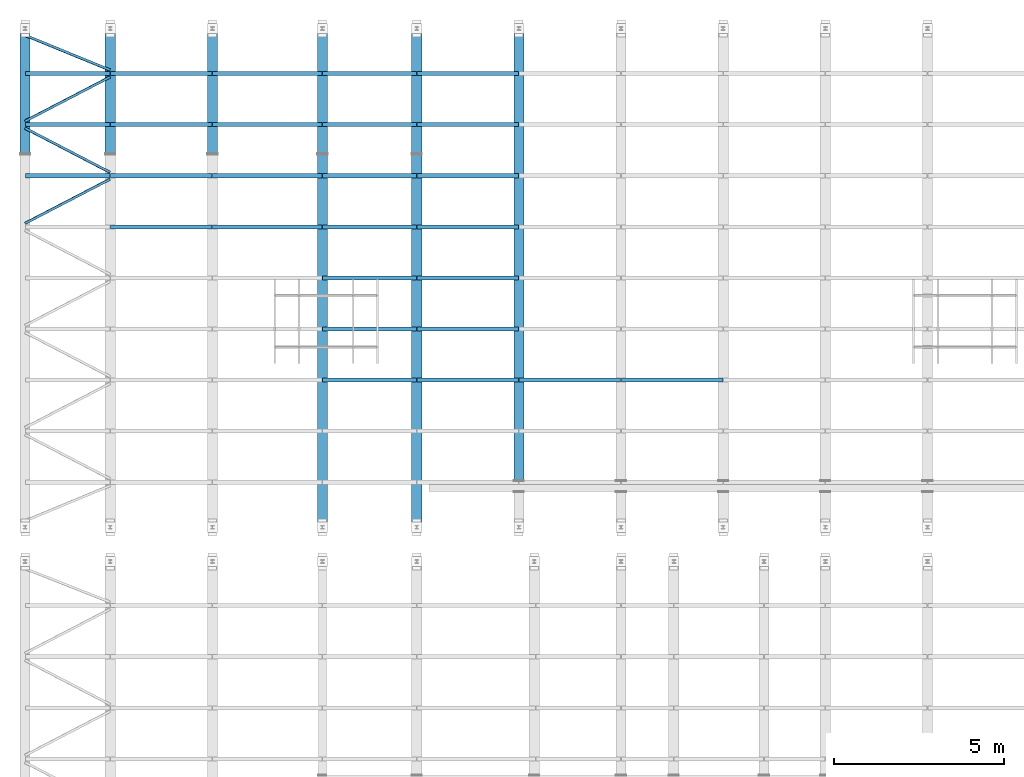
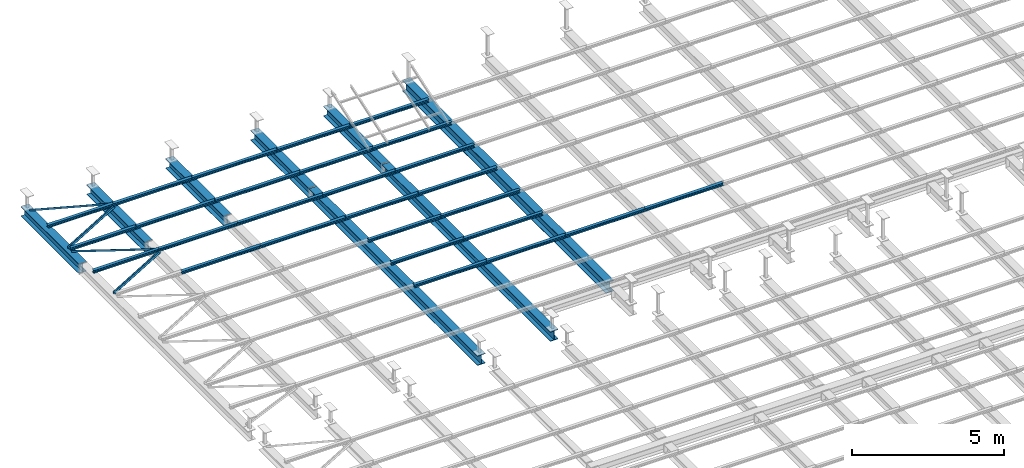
# One storey, part 78 of 139: 39 beams.
"""IFC2X3 building model written with IfcOpenShell, lengths in metres."""

from ifc_helpers import new_model, entity, si_unit, converted_unit, derived_unit, frame, origin, place, context, subcontext, project, spatial, polyline, outline, extrude, material, element, save


model = new_model("IFC2X3")

# Units and contexts
model_context = context("Model", 3, precision=1e-05, world=origin())
body_context = subcontext(model_context, "Body", "Model", "MODEL_VIEW")
ifc_project = project(units=[si_unit("LENGTHUNIT", "METRE"), si_unit("AREAUNIT", "SQUARE_METRE"), si_unit("VOLUMEUNIT", "CUBIC_METRE"), si_unit("MASSUNIT", "GRAM", prefix="KILO"), converted_unit("PLANEANGLEUNIT", "DEGREE", entity("IfcPlaneAngleMeasure", 0.0174532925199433), si_unit("PLANEANGLEUNIT", "RADIAN"), dimensions=[0, 0, 0, 0, 0, 0, 0]), derived_unit("THERMALTRANSMITTANCEUNIT", [(si_unit("POWERUNIT", "WATT"), 1), (si_unit("THERMODYNAMICTEMPERATUREUNIT", "KELVIN"), -1), (si_unit("LENGTHUNIT", "METRE"), -2)]), derived_unit("VOLUMETRICFLOWRATEUNIT", [(si_unit("LENGTHUNIT", "METRE"), 3), (converted_unit("TIMEUNIT", "hour", entity("IfcTimeMeasure", 3600.0), si_unit("TIMEUNIT", "SECOND"), dimensions=[0, 0, 1, 0, 0, 0, 0]), -1), (si_unit("LENGTHUNIT", "METRE"), -1)])], contexts=[model_context])

# Site, building, storey
site_placement = place(None, origin())
site = spatial("IfcSite", under=ifc_project, at=site_placement, Name="TWP_Speiseverteilzentrum SBW VZ II", CompositionType="ELEMENT")
building_placement = place(site_placement, origin())
building = spatial("IfcBuilding", under=site, at=building_placement, Name="Speiseverteilzentrum SBW VZ II", CompositionType="ELEMENT")
storey_placement = place(building_placement, frame((0.0, 0.0, 7.1307)))
storey = spatial("IfcBuildingStorey", under=building, at=storey_placement, Name="Wartung_FFB", CompositionType="ELEMENT", Elevation=7.1307)

# Beams
ifc_material_1 = material(Name="S235")
beam_1_placement = place(storey_placement, frame((10.5500000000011, 81.8930000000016, -0.385), z_axis=(0.0, 0.0, 1.0), x_axis=(1.0, -2.44929359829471e-16, 0.0)))
element("IfcBeam", 1, at=beam_1_placement, inside=storey, material=ifc_material_1, Name="Stahlträger", context=body_context, shape_type="SweptSolid", body=[
    extrude(outline(polyline([(-0.15, 0.195), (-0.15, 0.176), (-0.00550000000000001, 0.176), (-0.00550000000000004, -0.176), (-0.15, -0.176), (-0.15, -0.195), (0.15, -0.195), (0.15, -0.176), (0.00549999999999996, -0.176), (0.00549999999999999, 0.176), (0.15, 0.176), (0.15, 0.195), (-0.15, 0.195)])), frame((0.0, 0.0, 0.0), z_axis=(0.0, 1.0, 0.0), x_axis=(-1.0, 0.0, 0.0)), (0.0, 0.0, 1.0), 3.80699999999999),
])
ifc_material_2 = material(Name="S235")
beam_2_placement = place(storey_placement, frame((13.0500000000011, 81.8930000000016, -0.385), z_axis=(0.0, 0.0, 1.0), x_axis=(1.0, -2.44929359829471e-16, 0.0)))
element("IfcBeam", 2, at=beam_2_placement, inside=storey, material=ifc_material_2, Name="Stahlträger", context=body_context, shape_type="SweptSolid", body=[
    extrude(outline(polyline([(-0.15, 0.195), (-0.15, 0.176), (-0.00550000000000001, 0.176), (-0.00550000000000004, -0.176), (-0.15, -0.176), (-0.15, -0.195), (0.15, -0.195), (0.15, -0.176), (0.00549999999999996, -0.176), (0.00549999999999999, 0.176), (0.15, 0.176), (0.15, 0.195), (-0.15, 0.195)])), frame((0.0, 0.0, 0.0), z_axis=(0.0, 1.0, 0.0), x_axis=(-1.0, 0.0, 0.0)), (0.0, 0.0, 1.0), 3.80699999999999),
])
ifc_material_3 = material(Name="S235")
beam_3_placement = place(storey_placement, frame((16.0500000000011, 81.8930000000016, -0.385), z_axis=(0.0, 0.0, 1.0), x_axis=(1.0, -2.44929359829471e-16, 0.0)))
element("IfcBeam", 3, at=beam_3_placement, inside=storey, material=ifc_material_3, Name="Stahlträger", context=body_context, shape_type="SweptSolid", body=[
    extrude(outline(polyline([(-0.15, 0.195), (-0.15, 0.176), (-0.00550000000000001, 0.176), (-0.00550000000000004, -0.176), (-0.15, -0.176), (-0.15, -0.195), (0.15, -0.195), (0.15, -0.176), (0.00549999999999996, -0.176), (0.00549999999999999, 0.176), (0.15, 0.176), (0.15, 0.195), (-0.15, 0.195)])), frame((0.0, 0.0, 0.0), z_axis=(0.0, 1.0, 0.0), x_axis=(-1.0, 0.0, 0.0)), (0.0, 0.0, 1.0), 3.80699999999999),
])
ifc_material_4 = material(Name="S235")
beam_4_placement = place(storey_placement, frame((22.0500000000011, 81.8930000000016, -0.385), z_axis=(0.0, 0.0, 1.0), x_axis=(1.0, -2.44929359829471e-16, 0.0)))
element("IfcBeam", 4, at=beam_4_placement, inside=storey, material=ifc_material_4, Name="Stahlträger", context=body_context, shape_type="SweptSolid", body=[
    extrude(outline(polyline([(-0.15, 0.195), (-0.15, 0.176), (-0.00550000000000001, 0.176), (-0.00550000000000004, -0.176), (-0.15, -0.176), (-0.15, -0.195), (0.15, -0.195), (0.15, -0.176), (0.00549999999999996, -0.176), (0.00549999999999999, 0.176), (0.15, 0.176), (0.15, 0.195), (-0.15, 0.195)])), frame((0.0, 0.0, 0.0), z_axis=(0.0, 1.0, 0.0), x_axis=(-1.0, 0.0, 0.0)), (0.0, 0.0, 1.0), 3.80699999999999),
])
ifc_material_5 = material(Name="S235")
beam_5_placement = place(storey_placement, frame((19.2800000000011, 81.8930000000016, -0.385), z_axis=(0.0, 0.0, 1.0), x_axis=(1.0, -2.44929359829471e-16, 0.0)))
element("IfcBeam", 5, at=beam_5_placement, inside=storey, material=ifc_material_5, Name="Stahlträger", context=body_context, shape_type="SweptSolid", body=[
    extrude(outline(polyline([(-0.15, 0.195), (-0.15, 0.176), (-0.00550000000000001, 0.176), (-0.00550000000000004, -0.176), (-0.15, -0.176), (-0.15, -0.195), (0.15, -0.195), (0.15, -0.176), (0.00549999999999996, -0.176), (0.00549999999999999, 0.176), (0.15, 0.176), (0.15, 0.195), (-0.15, 0.195)])), frame((0.0, 0.0, 0.0), z_axis=(0.0, 1.0, 0.0), x_axis=(-1.0, 0.0, 0.0)), (0.0, 0.0, 1.0), 3.80699999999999),
])
ifc_material_6 = material(Name="S235")
beam_6_placement = place(storey_placement, frame((25.0500000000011, 72.2845015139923, -0.41), z_axis=(0.0, 0.0, 1.0), x_axis=(1.0, -2.44929359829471e-16, 0.0)))
element("IfcBeam", 6, at=beam_6_placement, inside=storey, material=ifc_material_6, Name="Stahlträger", context=body_context, shape_type="SweptSolid", body=[
    extrude(outline(polyline([(-0.15, 0.22), (-0.15, 0.199), (-0.00574999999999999, 0.199), (-0.00575000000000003, -0.199), (-0.15, -0.199), (-0.15, -0.22), (0.15, -0.22), (0.15, -0.199), (0.00574999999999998, -0.199), (0.00575000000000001, 0.199), (0.15, 0.199), (0.15, 0.22), (-0.15, 0.22)])), frame((0.0, 0.0, 0.0), z_axis=(0.0, 1.0, 0.0), x_axis=(-1.0, 0.0, 0.0)), (0.0, 0.0, 1.0), 13.4154984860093),
])
ifc_material_7 = material(Name="S235")
beam_7_placement = place(storey_placement, frame((22.0500000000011, 70.7522526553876, -0.385), z_axis=(0.0, 0.0, 1.0), x_axis=(1.0, -2.44929359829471e-16, 0.0)))
element("IfcBeam", 7, at=beam_7_placement, inside=storey, material=ifc_material_7, Name="Stahlträger", context=body_context, shape_type="SweptSolid", body=[
    extrude(outline(polyline([(-0.15, 0.195), (-0.15, 0.176), (-0.00550000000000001, 0.176), (-0.00550000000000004, -0.176), (-0.15, -0.176), (-0.15, -0.195), (0.15, -0.195), (0.15, -0.176), (0.00549999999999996, -0.176), (0.00549999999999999, 0.176), (0.15, 0.176), (0.15, 0.195), (-0.15, 0.195)])), frame((0.0, 0.0, 0.0), z_axis=(0.0, 1.0, 0.0), x_axis=(-1.0, 0.0, 0.0)), (0.0, 0.0, 1.0), 11.090747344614),
])
ifc_material_8 = material(Name="S235")
beam_8_placement = place(storey_placement, frame((19.2800000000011, 70.7522526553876, -0.385), z_axis=(0.0, 0.0, 1.0), x_axis=(1.0, -2.44929359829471e-16, 0.0)))
element("IfcBeam", 8, at=beam_8_placement, inside=storey, material=ifc_material_8, Name="Stahlträger", context=body_context, shape_type="SweptSolid", body=[
    extrude(outline(polyline([(-0.15, 0.195), (-0.15, 0.176), (-0.00550000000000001, 0.176), (-0.00550000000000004, -0.176), (-0.15, -0.176), (-0.15, -0.195), (0.15, -0.195), (0.15, -0.176), (0.00549999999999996, -0.176), (0.00549999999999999, 0.176), (0.15, 0.176), (0.15, 0.195), (-0.15, 0.195)])), frame((0.0, 0.0, 0.0), z_axis=(0.0, 1.0, 0.0), x_axis=(-1.0, 0.0, 0.0)), (0.0, 0.0, 1.0), 11.090747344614),
])
ifc_material_9 = material(Name="S235")
beam_9_placement = place(storey_placement, frame((13.0600000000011, 84.2261263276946, -0.133), z_axis=(0.0, 0.0, 1.0), x_axis=(0.0, -1.0, 0.0)))
element("IfcBeam", 9, at=beam_9_placement, inside=storey, material=ifc_material_9, Name="Nebenträger", context=body_context, shape_type="SweptSolid", body=[
    extrude(outline(polyline([(-0.06, 0.0570000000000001), (-0.06, 0.0490000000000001), (-0.00249999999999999, 0.0490000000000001), (-0.0025, -0.0489999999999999), (-0.06, -0.0489999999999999), (-0.06, -0.0569999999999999), (0.06, -0.0569999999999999), (0.06, -0.0489999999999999), (0.0025, -0.0489999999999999), (0.00250000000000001, 0.0490000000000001), (0.06, 0.0490000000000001), (0.06, 0.0570000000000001), (-0.06, 0.0570000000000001)])), frame((0.0, 0.0, 0.0), z_axis=(0.0, 1.0, 0.0), x_axis=(-1.0, 0.0, 0.0)), (0.0, 0.0, 1.0), 2.98),
])
ifc_material_10 = material(Name="S235")
beam_10_placement = place(storey_placement, frame((22.0600000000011, 84.2261263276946, -0.133), z_axis=(0.0, 0.0, 1.0), x_axis=(0.0, -1.0, 0.0)))
element("IfcBeam", 10, at=beam_10_placement, inside=storey, material=ifc_material_10, Name="Nebenträger", context=body_context, shape_type="SweptSolid", body=[
    extrude(outline(polyline([(-0.06, 0.0570000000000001), (-0.06, 0.0490000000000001), (-0.00249999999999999, 0.0490000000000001), (-0.0025, -0.0489999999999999), (-0.06, -0.0489999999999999), (-0.06, -0.0569999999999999), (0.06, -0.0569999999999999), (0.06, -0.0489999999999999), (0.0025, -0.0489999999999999), (0.00250000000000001, 0.0490000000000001), (0.06, 0.0490000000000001), (0.06, 0.0570000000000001), (-0.06, 0.0570000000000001)])), frame((0.0, 0.0, 0.0), z_axis=(0.0, 1.0, 0.0), x_axis=(-1.0, 0.0, 0.0)), (0.0, 0.0, 1.0), 2.98),
])
ifc_material_11 = material(Name="S235")
beam_11_placement = place(storey_placement, frame((10.5600000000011, 84.2261263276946, -0.133), z_axis=(0.0, 0.0, 1.0), x_axis=(0.0, -1.0, 0.0)))
element("IfcBeam", 11, at=beam_11_placement, inside=storey, material=ifc_material_11, Name="Nebenträger", context=body_context, shape_type="SweptSolid", body=[
    extrude(outline(polyline([(-0.06, 0.0570000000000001), (-0.06, 0.0490000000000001), (-0.00249999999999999, 0.0490000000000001), (-0.0025, -0.0489999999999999), (-0.06, -0.0489999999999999), (-0.06, -0.0569999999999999), (0.06, -0.0569999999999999), (0.06, -0.0489999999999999), (0.0025, -0.0489999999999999), (0.00250000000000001, 0.0490000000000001), (0.06, 0.0490000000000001), (0.06, 0.0570000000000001), (-0.06, 0.0570000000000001)])), frame((0.0, 0.0, 0.0), z_axis=(0.0, 1.0, 0.0), x_axis=(-1.0, 0.0, 0.0)), (0.0, 0.0, 1.0), 2.48000000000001),
])
ifc_material_12 = material(Name="S235")
beam_12_placement = place(storey_placement, frame((13.0600000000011, 82.7261263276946, -0.133), z_axis=(0.0, 0.0, 1.0), x_axis=(0.0, -1.0, 0.0)))
element("IfcBeam", 12, at=beam_12_placement, inside=storey, material=ifc_material_12, Name="Nebenträger", context=body_context, shape_type="SweptSolid", body=[
    extrude(outline(polyline([(-0.06, 0.0570000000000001), (-0.06, 0.0490000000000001), (-0.00249999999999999, 0.0490000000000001), (-0.0025, -0.0489999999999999), (-0.06, -0.0489999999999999), (-0.06, -0.0569999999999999), (0.06, -0.0569999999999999), (0.06, -0.0489999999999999), (0.0025, -0.0489999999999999), (0.00250000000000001, 0.0490000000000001), (0.06, 0.0490000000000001), (0.06, 0.0570000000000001), (-0.06, 0.0570000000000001)])), frame((0.0, 0.0, 0.0), z_axis=(0.0, 1.0, 0.0), x_axis=(-1.0, 0.0, 0.0)), (0.0, 0.0, 1.0), 2.98),
])
ifc_material_13 = material(Name="S235")
beam_13_placement = place(storey_placement, frame((22.0600000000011, 82.7261263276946, -0.133), z_axis=(0.0, 0.0, 1.0), x_axis=(0.0, -1.0, 0.0)))
element("IfcBeam", 13, at=beam_13_placement, inside=storey, material=ifc_material_13, Name="Nebenträger", context=body_context, shape_type="SweptSolid", body=[
    extrude(outline(polyline([(-0.06, 0.0570000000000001), (-0.06, 0.0490000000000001), (-0.00249999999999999, 0.0490000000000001), (-0.0025, -0.0489999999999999), (-0.06, -0.0489999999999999), (-0.06, -0.0569999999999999), (0.06, -0.0569999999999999), (0.06, -0.0489999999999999), (0.0025, -0.0489999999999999), (0.00250000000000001, 0.0490000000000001), (0.06, 0.0490000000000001), (0.06, 0.0570000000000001), (-0.06, 0.0570000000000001)])), frame((0.0, 0.0, 0.0), z_axis=(0.0, 1.0, 0.0), x_axis=(-1.0, 0.0, 0.0)), (0.0, 0.0, 1.0), 2.98),
])
ifc_material_14 = material(Name="S235")
beam_14_placement = place(storey_placement, frame((10.5600000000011, 82.7261263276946, -0.133), z_axis=(0.0, 0.0, 1.0), x_axis=(0.0, -1.0, 0.0)))
element("IfcBeam", 14, at=beam_14_placement, inside=storey, material=ifc_material_14, Name="Nebenträger", context=body_context, shape_type="SweptSolid", body=[
    extrude(outline(polyline([(-0.06, 0.0570000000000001), (-0.06, 0.0490000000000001), (-0.00249999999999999, 0.0490000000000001), (-0.0025, -0.0489999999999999), (-0.06, -0.0489999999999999), (-0.06, -0.0569999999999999), (0.06, -0.0569999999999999), (0.06, -0.0489999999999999), (0.0025, -0.0489999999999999), (0.00250000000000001, 0.0490000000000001), (0.06, 0.0490000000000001), (0.06, 0.0570000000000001), (-0.06, 0.0570000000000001)])), frame((0.0, 0.0, 0.0), z_axis=(0.0, 1.0, 0.0), x_axis=(-1.0, 0.0, 0.0)), (0.0, 0.0, 1.0), 2.48000000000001),
])
ifc_material_15 = material(Name="S235")
beam_15_placement = place(storey_placement, frame((13.0600000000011, 81.2261263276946, -0.133), z_axis=(0.0, 0.0, 1.0), x_axis=(0.0, -1.0, 0.0)))
element("IfcBeam", 15, at=beam_15_placement, inside=storey, material=ifc_material_15, Name="Nebenträger", context=body_context, shape_type="SweptSolid", body=[
    extrude(outline(polyline([(-0.06, 0.0570000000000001), (-0.06, 0.0490000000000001), (-0.00249999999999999, 0.0490000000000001), (-0.0025, -0.0489999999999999), (-0.06, -0.0489999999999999), (-0.06, -0.0569999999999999), (0.06, -0.0569999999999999), (0.06, -0.0489999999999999), (0.0025, -0.0489999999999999), (0.00250000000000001, 0.0490000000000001), (0.06, 0.0490000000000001), (0.06, 0.0570000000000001), (-0.06, 0.0570000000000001)])), frame((0.0, 0.0, 0.0), z_axis=(0.0, 1.0, 0.0), x_axis=(-1.0, 0.0, 0.0)), (0.0, 0.0, 1.0), 2.98),
])
ifc_material_16 = material(Name="S235")
beam_16_placement = place(storey_placement, frame((22.0600000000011, 81.2261263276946, -0.133), z_axis=(0.0, 0.0, 1.0), x_axis=(0.0, -1.0, 0.0)))
element("IfcBeam", 16, at=beam_16_placement, inside=storey, material=ifc_material_16, Name="Nebenträger", context=body_context, shape_type="SweptSolid", body=[
    extrude(outline(polyline([(-0.06, 0.0570000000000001), (-0.06, 0.0490000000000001), (-0.00249999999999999, 0.0490000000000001), (-0.0025, -0.0489999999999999), (-0.06, -0.0489999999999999), (-0.06, -0.0569999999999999), (0.06, -0.0569999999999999), (0.06, -0.0489999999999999), (0.0025, -0.0489999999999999), (0.00250000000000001, 0.0490000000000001), (0.06, 0.0490000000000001), (0.06, 0.0570000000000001), (-0.06, 0.0570000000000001)])), frame((0.0, 0.0, 0.0), z_axis=(0.0, 1.0, 0.0), x_axis=(-1.0, 0.0, 0.0)), (0.0, 0.0, 1.0), 2.98),
])
ifc_material_17 = material(Name="S235")
beam_17_placement = place(storey_placement, frame((10.5600000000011, 81.2261263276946, -0.133), z_axis=(0.0, 0.0, 1.0), x_axis=(0.0, -1.0, 0.0)))
element("IfcBeam", 17, at=beam_17_placement, inside=storey, material=ifc_material_17, Name="Nebenträger", context=body_context, shape_type="SweptSolid", body=[
    extrude(outline(polyline([(-0.06, 0.0570000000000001), (-0.06, 0.0490000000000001), (-0.00249999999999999, 0.0490000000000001), (-0.0025, -0.0489999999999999), (-0.06, -0.0489999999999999), (-0.06, -0.0569999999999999), (0.06, -0.0569999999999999), (0.06, -0.0489999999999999), (0.0025, -0.0489999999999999), (0.00250000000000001, 0.0490000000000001), (0.06, 0.0490000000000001), (0.06, 0.0570000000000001), (-0.06, 0.0570000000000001)])), frame((0.0, 0.0, 0.0), z_axis=(0.0, 1.0, 0.0), x_axis=(-1.0, 0.0, 0.0)), (0.0, 0.0, 1.0), 2.48000000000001),
])
ifc_material_18 = material(Name="S235")
beam_18_placement = place(storey_placement, frame((13.0600000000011, 79.7261263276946, -0.133), z_axis=(0.0, 0.0, 1.0), x_axis=(0.0, -1.0, 0.0)))
element("IfcBeam", 18, at=beam_18_placement, inside=storey, material=ifc_material_18, Name="Nebenträger", context=body_context, shape_type="SweptSolid", body=[
    extrude(outline(polyline([(-0.06, 0.0570000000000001), (-0.06, 0.0490000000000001), (-0.00249999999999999, 0.0490000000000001), (-0.0025, -0.0489999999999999), (-0.06, -0.0489999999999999), (-0.06, -0.0569999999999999), (0.06, -0.0569999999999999), (0.06, -0.0489999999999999), (0.0025, -0.0489999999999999), (0.00250000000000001, 0.0490000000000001), (0.06, 0.0490000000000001), (0.06, 0.0570000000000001), (-0.06, 0.0570000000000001)])), frame((0.0, 0.0, 0.0), z_axis=(0.0, 1.0, 0.0), x_axis=(-1.0, 0.0, 0.0)), (0.0, 0.0, 1.0), 2.98),
])
ifc_material_19 = material(Name="S235")
beam_19_placement = place(storey_placement, frame((22.0600000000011, 79.7261263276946, -0.133), z_axis=(0.0, 0.0, 1.0), x_axis=(0.0, -1.0, 0.0)))
element("IfcBeam", 19, at=beam_19_placement, inside=storey, material=ifc_material_19, Name="Nebenträger", context=body_context, shape_type="SweptSolid", body=[
    extrude(outline(polyline([(-0.06, 0.0570000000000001), (-0.06, 0.0490000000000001), (-0.00249999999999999, 0.0490000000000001), (-0.0025, -0.0489999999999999), (-0.06, -0.0489999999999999), (-0.06, -0.0569999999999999), (0.06, -0.0569999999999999), (0.06, -0.0489999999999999), (0.0025, -0.0489999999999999), (0.00250000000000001, 0.0490000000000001), (0.06, 0.0490000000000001), (0.06, 0.0570000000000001), (-0.06, 0.0570000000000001)])), frame((0.0, 0.0, 0.0), z_axis=(0.0, 1.0, 0.0), x_axis=(-1.0, 0.0, 0.0)), (0.0, 0.0, 1.0), 2.98),
])
ifc_material_20 = material(Name="S235")
beam_20_placement = place(storey_placement, frame((22.0600000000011, 78.2261263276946, -0.133), z_axis=(0.0, 0.0, 1.0), x_axis=(0.0, -1.0, 0.0)))
element("IfcBeam", 20, at=beam_20_placement, inside=storey, material=ifc_material_20, Name="Nebenträger", context=body_context, shape_type="SweptSolid", body=[
    extrude(outline(polyline([(-0.06, 0.0570000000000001), (-0.06, 0.0490000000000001), (-0.00249999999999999, 0.0490000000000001), (-0.0025, -0.0489999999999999), (-0.06, -0.0489999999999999), (-0.06, -0.0569999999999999), (0.06, -0.0569999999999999), (0.06, -0.0489999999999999), (0.0025, -0.0489999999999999), (0.00250000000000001, 0.0490000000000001), (0.06, 0.0490000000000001), (0.06, 0.0570000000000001), (-0.06, 0.0570000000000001)])), frame((0.0, 0.0, 0.0), z_axis=(0.0, 1.0, 0.0), x_axis=(-1.0, 0.0, 0.0)), (0.0, 0.0, 1.0), 2.98),
])
ifc_material_21 = material(Name="S235")
beam_21_placement = place(storey_placement, frame((22.0600000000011, 76.7261263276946, -0.133), z_axis=(0.0, 0.0, 1.0), x_axis=(0.0, -1.0, 0.0)))
element("IfcBeam", 21, at=beam_21_placement, inside=storey, material=ifc_material_21, Name="Nebenträger", context=body_context, shape_type="SweptSolid", body=[
    extrude(outline(polyline([(-0.06, 0.0570000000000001), (-0.06, 0.0490000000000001), (-0.00249999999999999, 0.0490000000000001), (-0.0025, -0.0489999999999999), (-0.06, -0.0489999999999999), (-0.06, -0.0569999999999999), (0.06, -0.0569999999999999), (0.06, -0.0489999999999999), (0.0025, -0.0489999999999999), (0.00250000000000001, 0.0490000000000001), (0.06, 0.0490000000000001), (0.06, 0.0570000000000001), (-0.06, 0.0570000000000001)])), frame((0.0, 0.0, 0.0), z_axis=(0.0, 1.0, 0.0), x_axis=(-1.0, 0.0, 0.0)), (0.0, 0.0, 1.0), 2.98),
])
ifc_material_22 = material(Name="S235")
beam_22_placement = place(storey_placement, frame((22.0600000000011, 75.2261263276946, -0.133), z_axis=(0.0, 0.0, 1.0), x_axis=(0.0, -1.0, 0.0)))
element("IfcBeam", 22, at=beam_22_placement, inside=storey, material=ifc_material_22, Name="Nebenträger", context=body_context, shape_type="SweptSolid", body=[
    extrude(outline(polyline([(-0.06, 0.0570000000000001), (-0.06, 0.0490000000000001), (-0.00249999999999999, 0.0490000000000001), (-0.0025, -0.0489999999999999), (-0.06, -0.0489999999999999), (-0.06, -0.0569999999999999), (0.06, -0.0569999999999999), (0.06, -0.0489999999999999), (0.0025, -0.0489999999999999), (0.00250000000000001, 0.0490000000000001), (0.06, 0.0490000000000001), (0.06, 0.0570000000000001), (-0.06, 0.0570000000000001)])), frame((0.0, 0.0, 0.0), z_axis=(0.0, 1.0, 0.0), x_axis=(-1.0, 0.0, 0.0)), (0.0, 0.0, 1.0), 2.98),
])
ifc_material_23 = material(Name="S235")
beam_23_placement = place(storey_placement, frame((25.0600000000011, 75.2261263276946, -0.133), z_axis=(0.0, 0.0, 1.0), x_axis=(0.0, -1.0, 0.0)))
element("IfcBeam", 23, at=beam_23_placement, inside=storey, material=ifc_material_23, Name="Nebenträger", context=body_context, shape_type="SweptSolid", body=[
    extrude(outline(polyline([(-0.06, 0.0570000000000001), (-0.06, 0.0490000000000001), (-0.00249999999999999, 0.0490000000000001), (-0.0025, -0.0489999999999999), (-0.06, -0.0489999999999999), (-0.06, -0.0569999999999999), (0.06, -0.0569999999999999), (0.06, -0.0489999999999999), (0.0025, -0.0489999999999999), (0.00250000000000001, 0.0490000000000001), (0.06, 0.0490000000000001), (0.06, 0.0570000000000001), (-0.06, 0.0570000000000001)])), frame((0.0, 0.0, 0.0), z_axis=(0.0, 1.0, 0.0), x_axis=(-1.0, 0.0, 0.0)), (0.0, 0.0, 1.0), 2.98),
])
ifc_material_24 = material(Name="S235")
beam_24_placement = place(storey_placement, frame((28.0600000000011, 75.2261263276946, -0.133), z_axis=(0.0, 0.0, 1.0), x_axis=(0.0, -1.0, 0.0)))
element("IfcBeam", 24, at=beam_24_placement, inside=storey, material=ifc_material_24, Name="Nebenträger", context=body_context, shape_type="SweptSolid", body=[
    extrude(outline(polyline([(-0.06, 0.0570000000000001), (-0.06, 0.0490000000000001), (-0.00249999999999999, 0.0490000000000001), (-0.0025, -0.0489999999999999), (-0.06, -0.0489999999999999), (-0.06, -0.0569999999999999), (0.06, -0.0569999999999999), (0.06, -0.0489999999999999), (0.0025, -0.0489999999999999), (0.00250000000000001, 0.0490000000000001), (0.06, 0.0490000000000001), (0.06, 0.0570000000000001), (-0.06, 0.0570000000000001)])), frame((0.0, 0.0, 0.0), z_axis=(0.0, 1.0, 0.0), x_axis=(-1.0, 0.0, 0.0)), (0.0, 0.0, 1.0), 2.98),
])
ifc_material_25 = material(Name="S235")
beam_25_placement = place(storey_placement, frame((16.0600000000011, 84.2261263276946, -0.133), z_axis=(0.0, 0.0, 1.0), x_axis=(0.0, -1.0, 0.0)))
element("IfcBeam", 25, at=beam_25_placement, inside=storey, material=ifc_material_25, Name="Nebenträger", context=body_context, shape_type="SweptSolid", body=[
    extrude(outline(polyline([(-0.06, 0.0570000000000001), (-0.06, 0.0490000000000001), (-0.00249999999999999, 0.0490000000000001), (-0.0025, -0.0489999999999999), (-0.06, -0.0489999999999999), (-0.06, -0.0569999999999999), (0.06, -0.0569999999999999), (0.06, -0.0489999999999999), (0.0025, -0.0489999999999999), (0.00250000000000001, 0.0490000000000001), (0.06, 0.0490000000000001), (0.06, 0.0570000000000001), (-0.06, 0.0570000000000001)])), frame((0.0, 0.0, 0.0), z_axis=(0.0, 1.0, 0.0), x_axis=(-1.0, 0.0, 0.0)), (0.0, 0.0, 1.0), 3.21),
])
ifc_material_26 = material(Name="S235")
beam_26_placement = place(storey_placement, frame((19.2900000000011, 84.2261263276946, -0.133), z_axis=(0.0, 0.0, 1.0), x_axis=(0.0, -1.0, 0.0)))
element("IfcBeam", 26, at=beam_26_placement, inside=storey, material=ifc_material_26, Name="Nebenträger", context=body_context, shape_type="SweptSolid", body=[
    extrude(outline(polyline([(-0.06, 0.0570000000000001), (-0.06, 0.0490000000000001), (-0.00249999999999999, 0.0490000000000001), (-0.0025, -0.0489999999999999), (-0.06, -0.0489999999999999), (-0.06, -0.0569999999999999), (0.06, -0.0569999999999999), (0.06, -0.0489999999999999), (0.0025, -0.0489999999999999), (0.00250000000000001, 0.0490000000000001), (0.06, 0.0490000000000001), (0.06, 0.0570000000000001), (-0.06, 0.0570000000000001)])), frame((0.0, 0.0, 0.0), z_axis=(0.0, 1.0, 0.0), x_axis=(-1.0, 0.0, 0.0)), (0.0, 0.0, 1.0), 2.75),
])
ifc_material_27 = material(Name="S235")
beam_27_placement = place(storey_placement, frame((16.0600000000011, 82.7261263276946, -0.133), z_axis=(0.0, 0.0, 1.0), x_axis=(0.0, -1.0, 0.0)))
element("IfcBeam", 27, at=beam_27_placement, inside=storey, material=ifc_material_27, Name="Nebenträger", context=body_context, shape_type="SweptSolid", body=[
    extrude(outline(polyline([(-0.06, 0.0570000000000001), (-0.06, 0.0490000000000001), (-0.00249999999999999, 0.0490000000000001), (-0.0025, -0.0489999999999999), (-0.06, -0.0489999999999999), (-0.06, -0.0569999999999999), (0.06, -0.0569999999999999), (0.06, -0.0489999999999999), (0.0025, -0.0489999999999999), (0.00250000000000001, 0.0490000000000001), (0.06, 0.0490000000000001), (0.06, 0.0570000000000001), (-0.06, 0.0570000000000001)])), frame((0.0, 0.0, 0.0), z_axis=(0.0, 1.0, 0.0), x_axis=(-1.0, 0.0, 0.0)), (0.0, 0.0, 1.0), 3.21),
])
ifc_material_28 = material(Name="S235")
beam_28_placement = place(storey_placement, frame((19.2900000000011, 82.7261263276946, -0.133), z_axis=(0.0, 0.0, 1.0), x_axis=(0.0, -1.0, 0.0)))
element("IfcBeam", 28, at=beam_28_placement, inside=storey, material=ifc_material_28, Name="Nebenträger", context=body_context, shape_type="SweptSolid", body=[
    extrude(outline(polyline([(-0.06, 0.0570000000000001), (-0.06, 0.0490000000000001), (-0.00249999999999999, 0.0490000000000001), (-0.0025, -0.0489999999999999), (-0.06, -0.0489999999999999), (-0.06, -0.0569999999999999), (0.06, -0.0569999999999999), (0.06, -0.0489999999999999), (0.0025, -0.0489999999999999), (0.00250000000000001, 0.0490000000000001), (0.06, 0.0490000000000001), (0.06, 0.0570000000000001), (-0.06, 0.0570000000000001)])), frame((0.0, 0.0, 0.0), z_axis=(0.0, 1.0, 0.0), x_axis=(-1.0, 0.0, 0.0)), (0.0, 0.0, 1.0), 2.75),
])
ifc_material_29 = material(Name="S235")
beam_29_placement = place(storey_placement, frame((16.0600000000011, 81.2261263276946, -0.133), z_axis=(0.0, 0.0, 1.0), x_axis=(0.0, -1.0, 0.0)))
element("IfcBeam", 29, at=beam_29_placement, inside=storey, material=ifc_material_29, Name="Nebenträger", context=body_context, shape_type="SweptSolid", body=[
    extrude(outline(polyline([(-0.06, 0.0570000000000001), (-0.06, 0.0490000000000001), (-0.00249999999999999, 0.0490000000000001), (-0.0025, -0.0489999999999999), (-0.06, -0.0489999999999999), (-0.06, -0.0569999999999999), (0.06, -0.0569999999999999), (0.06, -0.0489999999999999), (0.0025, -0.0489999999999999), (0.00250000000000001, 0.0490000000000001), (0.06, 0.0490000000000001), (0.06, 0.0570000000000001), (-0.06, 0.0570000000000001)])), frame((0.0, 0.0, 0.0), z_axis=(0.0, 1.0, 0.0), x_axis=(-1.0, 0.0, 0.0)), (0.0, 0.0, 1.0), 3.21),
])
ifc_material_30 = material(Name="S235")
beam_30_placement = place(storey_placement, frame((19.2900000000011, 81.2261263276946, -0.133), z_axis=(0.0, 0.0, 1.0), x_axis=(0.0, -1.0, 0.0)))
element("IfcBeam", 30, at=beam_30_placement, inside=storey, material=ifc_material_30, Name="Nebenträger", context=body_context, shape_type="SweptSolid", body=[
    extrude(outline(polyline([(-0.06, 0.0570000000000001), (-0.06, 0.0490000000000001), (-0.00249999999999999, 0.0490000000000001), (-0.0025, -0.0489999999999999), (-0.06, -0.0489999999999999), (-0.06, -0.0569999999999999), (0.06, -0.0569999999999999), (0.06, -0.0489999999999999), (0.0025, -0.0489999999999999), (0.00250000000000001, 0.0490000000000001), (0.06, 0.0490000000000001), (0.06, 0.0570000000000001), (-0.06, 0.0570000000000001)])), frame((0.0, 0.0, 0.0), z_axis=(0.0, 1.0, 0.0), x_axis=(-1.0, 0.0, 0.0)), (0.0, 0.0, 1.0), 2.75),
])
ifc_material_31 = material(Name="S235")
beam_31_placement = place(storey_placement, frame((16.0600000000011, 79.7261263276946, -0.133), z_axis=(0.0, 0.0, 1.0), x_axis=(0.0, -1.0, 0.0)))
element("IfcBeam", 31, at=beam_31_placement, inside=storey, material=ifc_material_31, Name="Nebenträger", context=body_context, shape_type="SweptSolid", body=[
    extrude(outline(polyline([(-0.06, 0.0570000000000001), (-0.06, 0.0490000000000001), (-0.00249999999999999, 0.0490000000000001), (-0.0025, -0.0489999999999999), (-0.06, -0.0489999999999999), (-0.06, -0.0569999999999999), (0.06, -0.0569999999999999), (0.06, -0.0489999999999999), (0.0025, -0.0489999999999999), (0.00250000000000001, 0.0490000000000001), (0.06, 0.0490000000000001), (0.06, 0.0570000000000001), (-0.06, 0.0570000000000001)])), frame((0.0, 0.0, 0.0), z_axis=(0.0, 1.0, 0.0), x_axis=(-1.0, 0.0, 0.0)), (0.0, 0.0, 1.0), 3.21),
])
ifc_material_32 = material(Name="S235")
beam_32_placement = place(storey_placement, frame((19.2900000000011, 79.7261263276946, -0.133), z_axis=(0.0, 0.0, 1.0), x_axis=(0.0, -1.0, 0.0)))
element("IfcBeam", 32, at=beam_32_placement, inside=storey, material=ifc_material_32, Name="Nebenträger", context=body_context, shape_type="SweptSolid", body=[
    extrude(outline(polyline([(-0.06, 0.0570000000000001), (-0.06, 0.0490000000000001), (-0.00249999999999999, 0.0490000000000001), (-0.0025, -0.0489999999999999), (-0.06, -0.0489999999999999), (-0.06, -0.0569999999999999), (0.06, -0.0569999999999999), (0.06, -0.0489999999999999), (0.0025, -0.0489999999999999), (0.00250000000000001, 0.0490000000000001), (0.06, 0.0490000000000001), (0.06, 0.0570000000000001), (-0.06, 0.0570000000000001)])), frame((0.0, 0.0, 0.0), z_axis=(0.0, 1.0, 0.0), x_axis=(-1.0, 0.0, 0.0)), (0.0, 0.0, 1.0), 2.75),
])
ifc_material_33 = material(Name="S235")
beam_33_placement = place(storey_placement, frame((19.2900000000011, 78.2261263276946, -0.133), z_axis=(0.0, 0.0, 1.0), x_axis=(0.0, -1.0, 0.0)))
element("IfcBeam", 33, at=beam_33_placement, inside=storey, material=ifc_material_33, Name="Nebenträger", context=body_context, shape_type="SweptSolid", body=[
    extrude(outline(polyline([(-0.06, 0.0570000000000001), (-0.06, 0.0490000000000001), (-0.00249999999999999, 0.0490000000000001), (-0.0025, -0.0489999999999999), (-0.06, -0.0489999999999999), (-0.06, -0.0569999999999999), (0.06, -0.0569999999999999), (0.06, -0.0489999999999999), (0.0025, -0.0489999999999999), (0.00250000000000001, 0.0490000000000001), (0.06, 0.0490000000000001), (0.06, 0.0570000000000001), (-0.06, 0.0570000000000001)])), frame((0.0, 0.0, 0.0), z_axis=(0.0, 1.0, 0.0), x_axis=(-1.0, 0.0, 0.0)), (0.0, 0.0, 1.0), 2.75),
])
ifc_material_34 = material(Name="S235")
beam_34_placement = place(storey_placement, frame((19.2900000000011, 76.7261263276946, -0.133), z_axis=(0.0, 0.0, 1.0), x_axis=(0.0, -1.0, 0.0)))
element("IfcBeam", 34, at=beam_34_placement, inside=storey, material=ifc_material_34, Name="Nebenträger", context=body_context, shape_type="SweptSolid", body=[
    extrude(outline(polyline([(-0.06, 0.0570000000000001), (-0.06, 0.0490000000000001), (-0.00249999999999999, 0.0490000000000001), (-0.0025, -0.0489999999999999), (-0.06, -0.0489999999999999), (-0.06, -0.0569999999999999), (0.06, -0.0569999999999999), (0.06, -0.0489999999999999), (0.0025, -0.0489999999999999), (0.00250000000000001, 0.0490000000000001), (0.06, 0.0490000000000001), (0.06, 0.0570000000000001), (-0.06, 0.0570000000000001)])), frame((0.0, 0.0, 0.0), z_axis=(0.0, 1.0, 0.0), x_axis=(-1.0, 0.0, 0.0)), (0.0, 0.0, 1.0), 2.75),
])
ifc_material_35 = material(Name="S235")
beam_35_placement = place(storey_placement, frame((19.2900000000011, 75.2261263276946, -0.133), z_axis=(0.0, 0.0, 1.0), x_axis=(0.0, -1.0, 0.0)))
element("IfcBeam", 35, at=beam_35_placement, inside=storey, material=ifc_material_35, Name="Nebenträger", context=body_context, shape_type="SweptSolid", body=[
    extrude(outline(polyline([(-0.06, 0.0570000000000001), (-0.06, 0.0490000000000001), (-0.00249999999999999, 0.0490000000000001), (-0.0025, -0.0489999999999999), (-0.06, -0.0489999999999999), (-0.06, -0.0569999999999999), (0.06, -0.0569999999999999), (0.06, -0.0489999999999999), (0.0025, -0.0489999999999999), (0.00250000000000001, 0.0490000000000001), (0.06, 0.0490000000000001), (0.06, 0.0570000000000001), (-0.06, 0.0570000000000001)])), frame((0.0, 0.0, 0.0), z_axis=(0.0, 1.0, 0.0), x_axis=(-1.0, 0.0, 0.0)), (0.0, 0.0, 1.0), 2.75),
])
ifc_material_36 = material(Name="S235")
beam_36_placement = place(storey_placement, frame((10.5365784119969, 82.8429448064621, -0.167052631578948), z_axis=(0.0, 0.0, 1.0), x_axis=(0.4612662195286, -0.887261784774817, 0.0)))
element("IfcBeam", 36, at=beam_36_placement, inside=storey, material=ifc_material_36, Name="Kreuzverband", context=body_context, shape_type="SweptSolid", body=[
    extrude(outline(polyline([(0.0229473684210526, -0.0229473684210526), (0.0229473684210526, 0.0570526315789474), (0.0149473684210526, 0.0570526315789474), (0.0149473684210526, -0.0149473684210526), (-0.0570526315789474, -0.0149473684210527), (-0.0570526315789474, -0.0229473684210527), (0.0229473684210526, -0.0229473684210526)])), frame((0.0, 0.0, 0.0), z_axis=(0.0, 1.00000000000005, 0.0), x_axis=(-1.0, 0.0, 0.0)), (0.0, 0.0, 1.0), 2.82000000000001),
])
ifc_material_37 = material(Name="S235")
beam_37_placement = place(storey_placement, frame((10.5365784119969, 82.609307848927, -0.167052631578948), z_axis=(0.0, 0.0, 1.0), x_axis=(-0.4612662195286, -0.887261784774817, 0.0)))
element("IfcBeam", 37, at=beam_37_placement, inside=storey, material=ifc_material_37, Name="Kreuzverband", context=body_context, shape_type="SweptSolid", body=[
    extrude(outline(polyline([(0.0570526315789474, -0.0229473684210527), (0.0570526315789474, -0.0149473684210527), (-0.0149473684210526, -0.0149473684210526), (-0.0149473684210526, 0.0570526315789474), (-0.0229473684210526, 0.0570526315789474), (-0.0229473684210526, -0.0229473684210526), (0.0570526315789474, -0.0229473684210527)])), frame((0.0, 0.0, 0.0), z_axis=(0.0, 1.00000000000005, 0.0), x_axis=(-1.0, 0.0, 0.0)), (0.0, 0.0, 1.0), 2.82000000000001),
])
ifc_material_38 = material(Name="S235")
beam_38_placement = place(storey_placement, frame((10.5365784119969, 79.8429448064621, -0.167052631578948), z_axis=(0.0, 0.0, 1.0), x_axis=(0.4612662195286, -0.887261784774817, 0.0)))
element("IfcBeam", 38, at=beam_38_placement, inside=storey, material=ifc_material_38, Name="Kreuzverband", context=body_context, shape_type="SweptSolid", body=[
    extrude(outline(polyline([(0.0229473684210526, -0.0229473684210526), (0.0229473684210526, 0.0570526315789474), (0.0149473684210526, 0.0570526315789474), (0.0149473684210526, -0.0149473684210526), (-0.0570526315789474, -0.0149473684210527), (-0.0570526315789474, -0.0229473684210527), (0.0229473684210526, -0.0229473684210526)])), frame((0.0, 0.0, 0.0), z_axis=(0.0, 1.00000000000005, 0.0), x_axis=(-1.0, 0.0, 0.0)), (0.0, 0.0, 1.0), 2.82000000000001),
])
ifc_material_39 = material(Name="S235")
beam_39_placement = place(storey_placement, frame((10.5233489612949, 85.34242624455, -0.167052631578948), z_axis=(0.0, 0.0, 1.0), x_axis=(-0.379103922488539, -0.925354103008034, 0.0)))
element("IfcBeam", 39, at=beam_39_placement, inside=storey, material=ifc_material_39, Name="Kreuzverband", context=body_context, shape_type="SweptSolid", body=[
    extrude(outline(polyline([(0.0570526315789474, -0.0229473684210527), (0.0570526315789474, -0.0149473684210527), (-0.0149473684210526, -0.0149473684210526), (-0.0149473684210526, 0.0570526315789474), (-0.0229473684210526, 0.0570526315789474), (-0.0229473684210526, -0.0229473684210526), (0.0570526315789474, -0.0229473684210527)])), frame((0.0, 0.0, 0.0), z_axis=(0.0, 1.0, 0.0), x_axis=(-1.0, 0.0, 0.0)), (0.0, 0.0, 1.0), 2.71617348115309),
])

save(model, "model.ifc")
